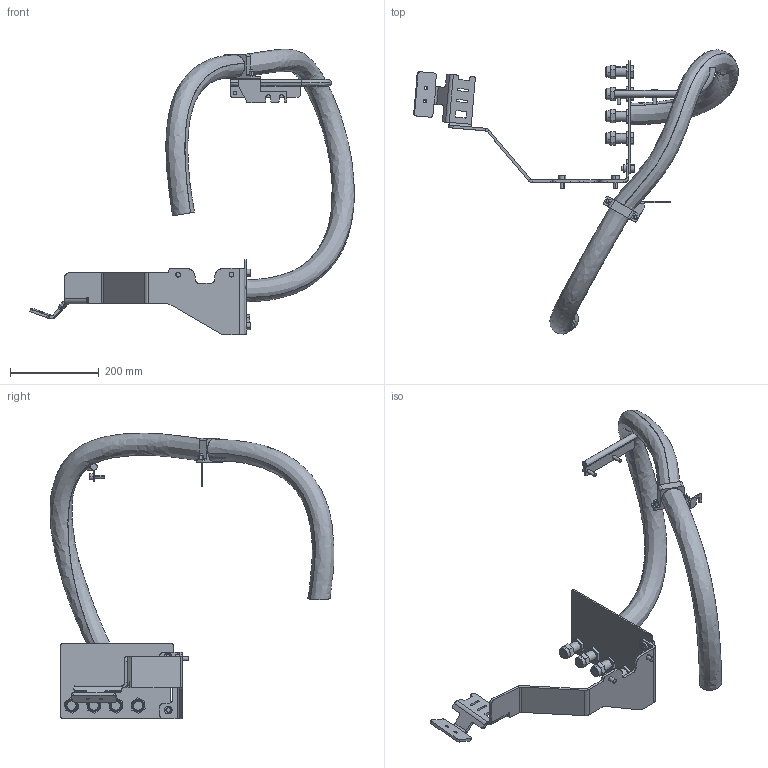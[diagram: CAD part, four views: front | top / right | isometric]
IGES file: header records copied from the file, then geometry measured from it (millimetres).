
Start section: SolidWorks IGES file using analytic representation for surfaces
Global section: file name: C:\DATA\SAP_DOC\LW\IRB 6730\IRB6730-MH3_270kg-270_OC_01_SW_J\Export\IRB6730-MH3_270kg-270_OC_01_IGES_J\IRB6730-MH3_270kg-270_OC_00_LINK03a_CABLE.igs; native system: SolidWorks 2024; preprocessor: SolidWorks 2024; author: SEJOVAS3; date: 260526.113908; units: millimetre
Bounding box: 732.04 x 640.3 x 644.52 mm (x, y, z)
Surface area: 518377 mm2 (no closed solid volume)
Topology: 0 solids, 0 shells, 496 faces, 6932 edges, 6932 vertices
Faces by surface type: bspline 305, revolution 191
